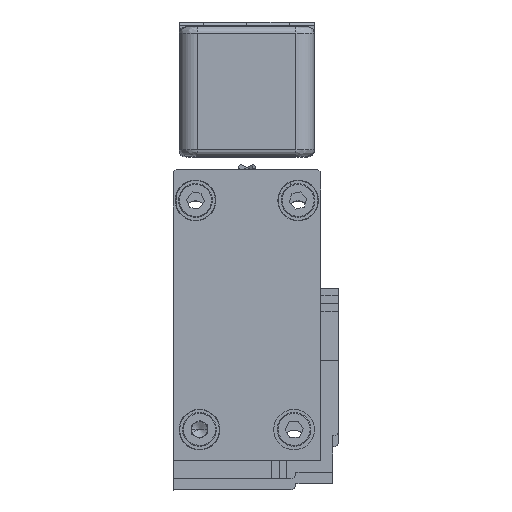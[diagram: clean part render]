
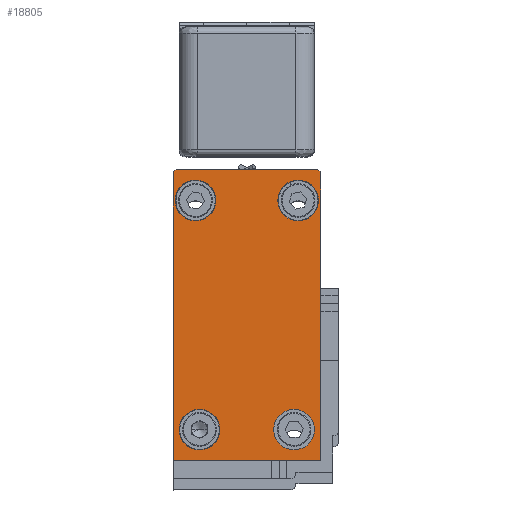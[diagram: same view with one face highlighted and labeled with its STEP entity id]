
A CAD part, top view. The second image highlights one B-rep face of the part: STEP entity #18805.
In plain terms, the highlighted planar face has unit normal (0, 0, 1).
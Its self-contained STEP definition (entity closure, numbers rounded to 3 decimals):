
#933 = LINE ( 'NONE', #10778, #19036 ) ;
#1009 = CARTESIAN_POINT ( 'NONE',  ( 4.978, -15.887, 3185. ) ) ;
#1368 = FACE_BOUND ( 'NONE', #2170, .T. ) ;
#1420 = VERTEX_POINT ( 'NONE', #26526 ) ;
#1479 = PLANE ( 'NONE',  #5194 ) ;
#1540 = DIRECTION ( 'NONE',  ( 0., 0., -1. ) ) ;
#1899 = DIRECTION ( 'NONE',  ( -1., 0., 0. ) ) ;
#2099 = FACE_BOUND ( 'NONE', #14873, .T. ) ;
#2164 = EDGE_CURVE ( 'NONE', #14376, #9059, #11879, .T. ) ;
#2170 = EDGE_LOOP ( 'NONE', ( #9518, #10921 ) ) ;
#2203 = DIRECTION ( 'NONE',  ( -1., 0., 0. ) ) ;
#3676 = CARTESIAN_POINT ( 'NONE',  ( 5.984, 7.11, 3185. ) ) ;
#3723 = ORIENTED_EDGE ( 'NONE', *, *, #18587, .T. ) ;
#3810 = CARTESIAN_POINT ( 'NONE',  ( 5.637, 21.401, 3185. ) ) ;
#4504 = EDGE_CURVE ( 'NONE', #13578, #5226, #933, .T. ) ;
#4929 = ORIENTED_EDGE ( 'NONE', *, *, #2164, .T. ) ;
#5053 = LINE ( 'NONE', #28649, #26478 ) ;
#5194 = AXIS2_PLACEMENT_3D ( 'NONE', #27970, #13849, #30356 ) ;
#5226 = VERTEX_POINT ( 'NONE', #16978 ) ;
#5259 = DIRECTION ( 'NONE',  ( 0., 0., -1. ) ) ;
#5506 = CARTESIAN_POINT ( 'NONE',  ( -1.626, -15.887, 3185. ) ) ;
#5615 = CARTESIAN_POINT ( 'NONE',  ( 2.335, 21.401, 3185. ) ) ;
#5889 = ORIENTED_EDGE ( 'NONE', *, *, #9697, .T. ) ;
#5891 = ORIENTED_EDGE ( 'NONE', *, *, #29281, .T. ) ;
#6519 = ORIENTED_EDGE ( 'NONE', *, *, #4504, .T. ) ;
#6678 = CARTESIAN_POINT ( 'NONE',  ( 5.485, 25.871, 3185. ) ) ;
#6718 = EDGE_CURVE ( 'NONE', #29491, #1420, #27057, .T. ) ;
#7032 = CIRCLE ( 'NONE', #10677, 0.5 ) ;
#7170 = VECTOR ( 'NONE', #29566, 1000. ) ;
#7947 = ORIENTED_EDGE ( 'NONE', *, *, #19641, .T. ) ;
#7994 = DIRECTION ( 'NONE',  ( 0., 0., -1. ) ) ;
#8004 = DIRECTION ( 'NONE',  ( -1., 0., 0. ) ) ;
#8061 = CARTESIAN_POINT ( 'NONE',  ( -17.514, 26.371, 3185. ) ) ;
#8186 = VECTOR ( 'NONE', #23198, 1000. ) ;
#8238 = CARTESIAN_POINT ( 'NONE',  ( -11.063, 21.401, 3185. ) ) ;
#8489 = CARTESIAN_POINT ( 'NONE',  ( -18.014, 25.871, 3185. ) ) ;
#9012 = CARTESIAN_POINT ( 'NONE',  ( -17.514, 25.871, 3185. ) ) ;
#9059 = VERTEX_POINT ( 'NONE', #1009 ) ;
#9067 = DIRECTION ( 'NONE',  ( 0., 1., 0. ) ) ;
#9489 = EDGE_LOOP ( 'NONE', ( #5891, #24053 ) ) ;
#9518 = ORIENTED_EDGE ( 'NONE', *, *, #18049, .T. ) ;
#9697 = EDGE_CURVE ( 'NONE', #17900, #27118, #26007, .T. ) ;
#10084 = ORIENTED_EDGE ( 'NONE', *, *, #6718, .T. ) ;
#10192 = DIRECTION ( 'NONE',  ( 0., 0., -1. ) ) ;
#10339 = CIRCLE ( 'NONE', #28632, 3.302 ) ;
#10370 = CIRCLE ( 'NONE', #14590, 3.302 ) ;
#10536 = ORIENTED_EDGE ( 'NONE', *, *, #22325, .T. ) ;
#10677 = AXIS2_PLACEMENT_3D ( 'NONE', #6678, #23207, #9067 ) ;
#10778 = CARTESIAN_POINT ( 'NONE',  ( -18.014, 25.871, 3185. ) ) ;
#10921 = ORIENTED_EDGE ( 'NONE', *, *, #27472, .T. ) ;
#11381 = DIRECTION ( 'NONE',  ( 0., 1., 0. ) ) ;
#11427 = VERTEX_POINT ( 'NONE', #24292 ) ;
#11864 = EDGE_CURVE ( 'NONE', #27064, #28887, #5053, .T. ) ;
#11879 = CIRCLE ( 'NONE', #28626, 3.302 ) ;
#12084 = AXIS2_PLACEMENT_3D ( 'NONE', #13377, #29870, #15747 ) ;
#12190 = DIRECTION ( 'NONE',  ( -1., 0., 0. ) ) ;
#12975 = ORIENTED_EDGE ( 'NONE', *, *, #27646, .T. ) ;
#13377 = CARTESIAN_POINT ( 'NONE',  ( 2.335, 21.401, 3185. ) ) ;
#13578 = VERTEX_POINT ( 'NONE', #8489 ) ;
#13641 = VERTEX_POINT ( 'NONE', #3810 ) ;
#13849 = DIRECTION ( 'NONE',  ( 0., 0., 1. ) ) ;
#14030 = CARTESIAN_POINT ( 'NONE',  ( -18.014, -20.888, 3185. ) ) ;
#14376 = VERTEX_POINT ( 'NONE', #5506 ) ;
#14590 = AXIS2_PLACEMENT_3D ( 'NONE', #19405, #5259, #21781 ) ;
#14873 = EDGE_LOOP ( 'NONE', ( #4929, #3723 ) ) ;
#15166 = EDGE_LOOP ( 'NONE', ( #27653, #10084 ) ) ;
#15210 = LINE ( 'NONE', #20824, #8186 ) ;
#15681 = CARTESIAN_POINT ( 'NONE',  ( -14.365, 21.401, 3185. ) ) ;
#15747 = DIRECTION ( 'NONE',  ( -1., 0., 0. ) ) ;
#16039 = DIRECTION ( 'NONE',  ( 0., 0., -1. ) ) ;
#16348 = DIRECTION ( 'NONE',  ( 0., 0., -1. ) ) ;
#16406 = DIRECTION ( 'NONE',  ( 1., 0., 0. ) ) ;
#16949 = CARTESIAN_POINT ( 'NONE',  ( 5.984, 25.871, 3185. ) ) ;
#16978 = CARTESIAN_POINT ( 'NONE',  ( -18.014, -20.888, 3185. ) ) ;
#17286 = CIRCLE ( 'NONE', #20621, 3.302 ) ;
#17804 = VERTEX_POINT ( 'NONE', #8238 ) ;
#17900 = VERTEX_POINT ( 'NONE', #3676 ) ;
#18049 = EDGE_CURVE ( 'NONE', #11427, #17804, #22848, .T. ) ;
#18058 = AXIS2_PLACEMENT_3D ( 'NONE', #30169, #16039, #1899 ) ;
#18062 = DIRECTION ( 'NONE',  ( -1., 0., 0. ) ) ;
#18587 = EDGE_CURVE ( 'NONE', #9059, #14376, #17286, .T. ) ;
#18766 = EDGE_CURVE ( 'NONE', #13578, #28887, #20203, .T. ) ;
#18805 = ADVANCED_FACE ( 'NONE', ( #1368, #26481, #2099, #25720, #19460 ), #1479, .T. ) ;
#18839 = CARTESIAN_POINT ( 'NONE',  ( 5.485, 26.371, 3185. ) ) ;
#19036 = VECTOR ( 'NONE', #27263, 1000. ) ;
#19405 = CARTESIAN_POINT ( 'NONE',  ( -13.714, -15.887, 3185. ) ) ;
#19460 = FACE_OUTER_BOUND ( 'NONE', #23333, .T. ) ;
#19641 = EDGE_CURVE ( 'NONE', #5226, #21591, #28806, .T. ) ;
#20203 = CIRCLE ( 'NONE', #24797, 0.5 ) ;
#20621 = AXIS2_PLACEMENT_3D ( 'NONE', #22116, #7994, #24498 ) ;
#20761 = CARTESIAN_POINT ( 'NONE',  ( 5.984, -20.888, 3185. ) ) ;
#20824 = CARTESIAN_POINT ( 'NONE',  ( 5.984, -20.888, 3185. ) ) ;
#21086 = ORIENTED_EDGE ( 'NONE', *, *, #18766, .F. ) ;
#21591 = VERTEX_POINT ( 'NONE', #20761 ) ;
#21781 = DIRECTION ( 'NONE',  ( -1., 0., 0. ) ) ;
#21807 = VECTOR ( 'NONE', #16406, 1000. ) ;
#22106 = CIRCLE ( 'NONE', #12084, 3.302 ) ;
#22116 = CARTESIAN_POINT ( 'NONE',  ( 1.676, -15.887, 3185. ) ) ;
#22125 = DIRECTION ( 'NONE',  ( 0., 0., -1. ) ) ;
#22325 = EDGE_CURVE ( 'NONE', #21591, #17900, #15210, .T. ) ;
#22848 = CIRCLE ( 'NONE', #18058, 3.302 ) ;
#23198 = DIRECTION ( 'NONE',  ( 0., 1., 0. ) ) ;
#23207 = DIRECTION ( 'NONE',  ( 0., 0., 1. ) ) ;
#23333 = EDGE_LOOP ( 'NONE', ( #10536, #5889, #12975, #29504, #21086, #6519, #7947 ) ) ;
#24053 = ORIENTED_EDGE ( 'NONE', *, *, #28467, .T. ) ;
#24292 = CARTESIAN_POINT ( 'NONE',  ( -17.667, 21.401, 3185. ) ) ;
#24322 = CARTESIAN_POINT ( 'NONE',  ( 1.676, -15.887, 3185. ) ) ;
#24498 = DIRECTION ( 'NONE',  ( -1., 0., 0. ) ) ;
#24619 = CIRCLE ( 'NONE', #27893, 3.302 ) ;
#24731 = CARTESIAN_POINT ( 'NONE',  ( 5.984, 7.11, 3185. ) ) ;
#24797 = AXIS2_PLACEMENT_3D ( 'NONE', #9012, #25501, #11381 ) ;
#25478 = VERTEX_POINT ( 'NONE', #29647 ) ;
#25501 = DIRECTION ( 'NONE',  ( 0., 0., -1. ) ) ;
#25720 = FACE_BOUND ( 'NONE', #15166, .T. ) ;
#25988 = AXIS2_PLACEMENT_3D ( 'NONE', #30467, #16348, #2203 ) ;
#26007 = LINE ( 'NONE', #24731, #7170 ) ;
#26478 = VECTOR ( 'NONE', #12190, 1000. ) ;
#26481 = FACE_BOUND ( 'NONE', #9489, .T. ) ;
#26526 = CARTESIAN_POINT ( 'NONE',  ( -17.017, -15.887, 3185. ) ) ;
#26683 = DIRECTION ( 'NONE',  ( -1., 0., 0. ) ) ;
#27057 = CIRCLE ( 'NONE', #25988, 3.302 ) ;
#27064 = VERTEX_POINT ( 'NONE', #18839 ) ;
#27118 = VERTEX_POINT ( 'NONE', #16949 ) ;
#27123 = EDGE_CURVE ( 'NONE', #1420, #29491, #10370, .T. ) ;
#27263 = DIRECTION ( 'NONE',  ( 0., -1., 0. ) ) ;
#27472 = EDGE_CURVE ( 'NONE', #17804, #11427, #10339, .T. ) ;
#27646 = EDGE_CURVE ( 'NONE', #27118, #27064, #7032, .T. ) ;
#27653 = ORIENTED_EDGE ( 'NONE', *, *, #27123, .T. ) ;
#27893 = AXIS2_PLACEMENT_3D ( 'NONE', #5615, #22125, #8004 ) ;
#27970 = CARTESIAN_POINT ( 'NONE',  ( -18.014, -20.888, 3185. ) ) ;
#28467 = EDGE_CURVE ( 'NONE', #13641, #25478, #22106, .T. ) ;
#28626 = AXIS2_PLACEMENT_3D ( 'NONE', #24322, #10192, #26683 ) ;
#28632 = AXIS2_PLACEMENT_3D ( 'NONE', #15681, #1540, #18062 ) ;
#28649 = CARTESIAN_POINT ( 'NONE',  ( 5.485, 26.371, 3185. ) ) ;
#28806 = LINE ( 'NONE', #14030, #21807 ) ;
#28887 = VERTEX_POINT ( 'NONE', #8061 ) ;
#29281 = EDGE_CURVE ( 'NONE', #25478, #13641, #24619, .T. ) ;
#29491 = VERTEX_POINT ( 'NONE', #29763 ) ;
#29504 = ORIENTED_EDGE ( 'NONE', *, *, #11864, .T. ) ;
#29566 = DIRECTION ( 'NONE',  ( 0., 1., 0. ) ) ;
#29647 = CARTESIAN_POINT ( 'NONE',  ( -0.967, 21.401, 3185. ) ) ;
#29763 = CARTESIAN_POINT ( 'NONE',  ( -10.412, -15.887, 3185. ) ) ;
#29870 = DIRECTION ( 'NONE',  ( 0., 0., -1. ) ) ;
#30169 = CARTESIAN_POINT ( 'NONE',  ( -14.365, 21.401, 3185. ) ) ;
#30356 = DIRECTION ( 'NONE',  ( -1., 0., 0. ) ) ;
#30467 = CARTESIAN_POINT ( 'NONE',  ( -13.714, -15.887, 3185. ) ) ;
